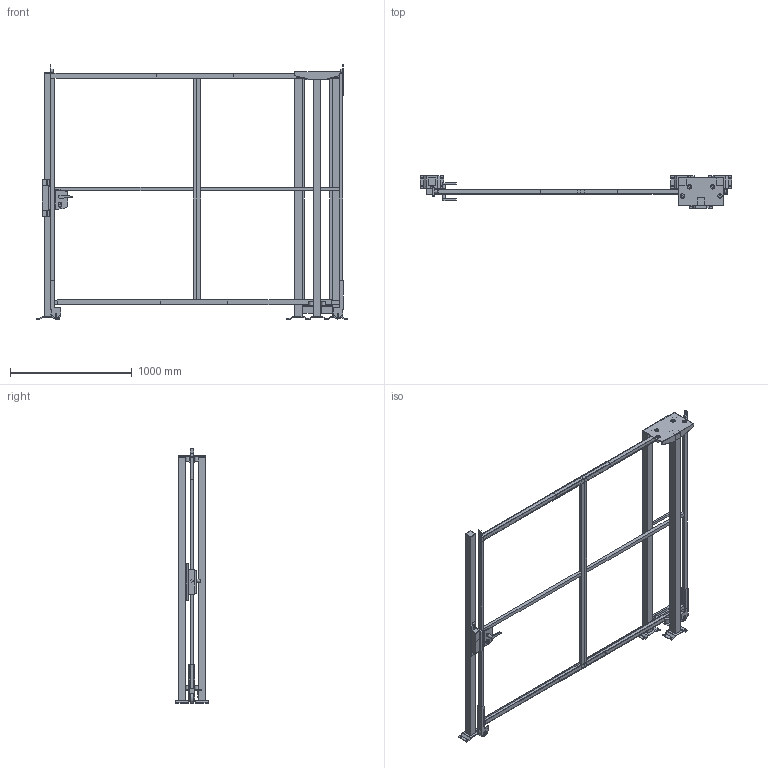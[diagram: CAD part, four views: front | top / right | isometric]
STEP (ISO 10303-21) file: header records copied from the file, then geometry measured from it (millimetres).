
FILE_DESCRIPTION(/* description */ (''),/* implementation_level */ '2;1');
FILE_NAME(/* name */ 'C:\SafeGuarding\ELABORATI\KLADKOUGAMMA_2025-03-20-13-38-20.stp',/* time_stamp */ '2025-03-20T13:38:26+01:00',/* author */ ('admin'),/* organization */ (''),/* preprocessor_version */ 'ST-DEVELOPER v18.1',/* originating_system */ 'AutoCAD Mechanical',/* authorisation */ '');
FILE_SCHEMA (('AUTOMOTIVE_DESIGN { 1 0 10303 214 3 1 1 }'));
Length unit declared in the file: millimetre
Products named in the file (4): Product; R_VFPA.REPE30.12001900; R_VFPA.REPE20.02501900; P_VFMA.V260SDU.2020
Assembly tree (7 placements, depth 2):
  Product
    R_VFPA.REPE30.12001900  x2
    P_VFMA.V260SDU.2020  x4
    R_VFPA.REPE20.02501900
Bounding box: 2562 x 264 x 2090.02 mm (x, y, z)
Volume: 48421157.4 mm3; surface area: 6536688.9 mm2
Topology: 68 solids, 68 shells, 608 faces, 1747 edges, 1719 vertices
Faces by surface type: plane 530, cylinder 74, bspline 4
Full cylindrical faces by diameter (mm): 9 x4, 11 x16, 13 x4, 18 x1, 25 x2, 25.398 x2, 30 x6, 36 x8, 80 x2
Entity records: 16741 total; most frequent: CARTESIAN_POINT 4325, DIRECTION 2479, ORIENTED_EDGE 2254, EDGE_CURVE 1127, LINE 1089, VECTOR 1089, VERTEX_POINT 758, AXIS2_PLACEMENT_3D 695
